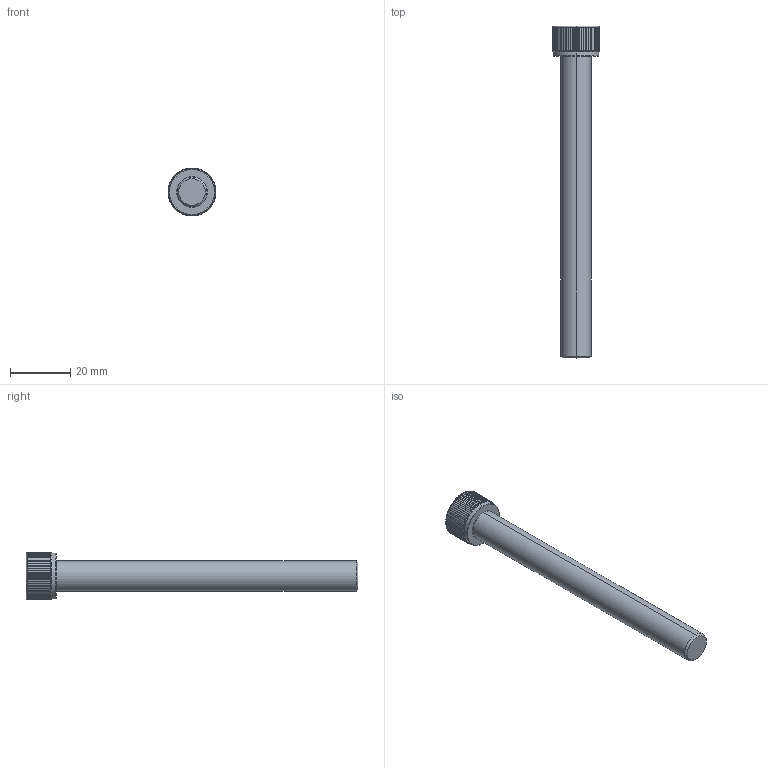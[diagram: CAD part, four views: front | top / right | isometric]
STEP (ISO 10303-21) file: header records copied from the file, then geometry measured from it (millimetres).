
FILE_DESCRIPTION (( 'STEP AP203' ), '1' );
FILE_NAME ('LGDT-304-M10x100.STEP', '2026-08-10T07:33:37', ( '' ), ( '' ), 'SwSTEP 2.0', 'SolidWorks 2020', '' );
FILE_SCHEMA (( 'CONFIG_CONTROL_DESIGN' ));
Length unit declared in the file: millimetre
Products named in the file (1): LGDT-304-M10x100
Bounding box: 15.8 x 110 x 15.8 mm (x, y, z)
Volume: 9449.1 mm3; surface area: 4158.7 mm2
Topology: 1 solids, 1 shells, 204 faces, 576 edges, 376 vertices
Faces by surface type: cylinder 175, cone 11, plane 10, torus 8
Entity records: 8367 total; most frequent: CARTESIAN_POINT 3208, ORIENTED_EDGE 1152, DIRECTION 988, EDGE_CURVE 576, AXIS2_PLACEMENT_3D 398, VERTEX_POINT 376, EDGE_LOOP 206, ADVANCED_FACE 204
